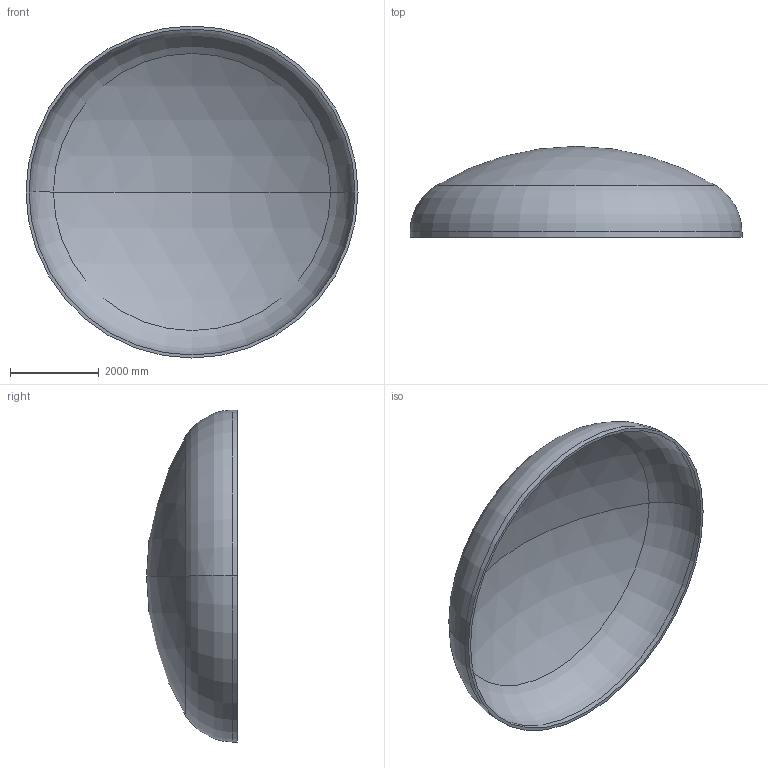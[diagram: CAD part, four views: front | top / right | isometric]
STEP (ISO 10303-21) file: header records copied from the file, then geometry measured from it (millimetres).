
FILE_DESCRIPTION (( 'STEP AP203' ), '1' );
FILE_NAME ('DIN 28013 Korbbogenform_-_Boden DIN 28013 - 7500 x 120 - I - s=68.step', '2016-07-04T10:55:28', ( '' ), ( '' ), 'SwSTEP 2.0', 'SolidWorks 2013', '' );
FILE_SCHEMA (( 'CONFIG_CONTROL_DESIGN' ));
Length unit declared in the file: millimetre
Products named in the file (1): DIN 28013 Korbbogenform_-_Boden DIN 28013 - 7500 x 120 - I - s=68
Bounding box: 7500 x 2054.2 x 7500 mm (x, y, z)
Volume: 4301642088.7 mm3; surface area: 128116205.9 mm2
Topology: 1 solids, 1 shells, 13 faces, 24 edges, 14 vertices
Faces by surface type: torus 4, cylinder 4, sphere 4, plane 1
Entity records: 407 total; most frequent: DIRECTION 72, CARTESIAN_POINT 52, ORIENTED_EDGE 48, AXIS2_PLACEMENT_3D 34, EDGE_CURVE 24, CIRCLE 20, EDGE_LOOP 14, VERTEX_POINT 14
